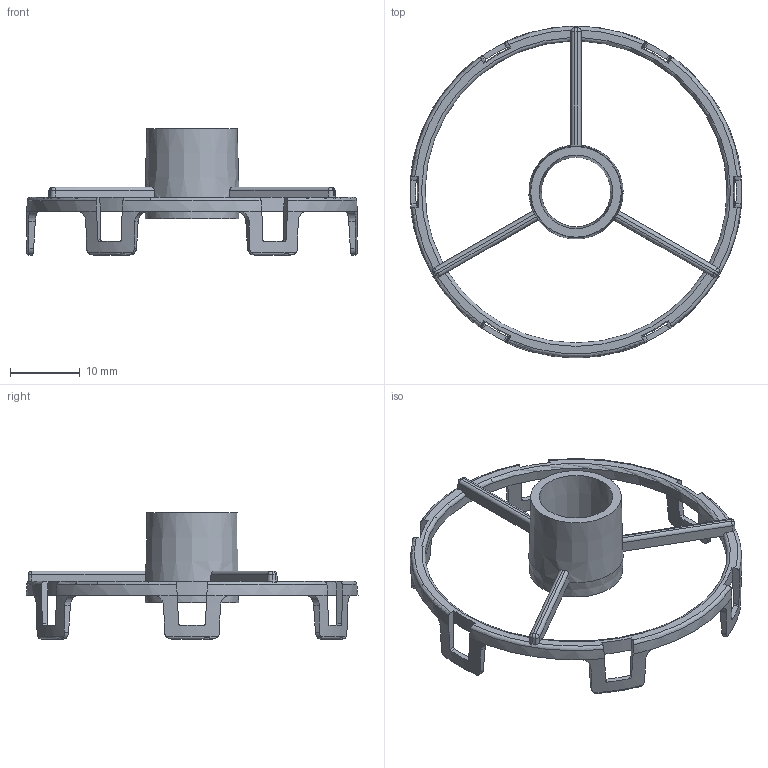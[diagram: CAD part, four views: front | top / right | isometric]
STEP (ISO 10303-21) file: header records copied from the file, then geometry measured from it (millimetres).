
FILE_DESCRIPTION(('STEP AP214'),'1');
FILE_NAME('211108_X74792_3D_LLW59HM_MASQUE_HAUT_IND1.stp','2021-11-08T15:25:41',(' '),(' '),'Spatial InterOp 3D',' ',' ');
FILE_SCHEMA(('AUTOMOTIVE_DESIGN { 1 0 10303 214 1 1 1 1 }'));
Length unit declared in the file: millimetre
Products named in the file (1): 211108_X74792_3D_LLW59HM_MASQUE_HAUT_IND1
Bounding box: 47.38 x 47.54 x 18.05 mm (x, y, z)
Volume: 1520.7 mm3; surface area: 2930.8 mm2
Topology: 1 solids, 1 shells, 157 faces, 474 edges, 295 vertices
Faces by surface type: plane 56, cylinder 51, cone 29, torus 15, sphere 6
Entity records: 7579 total; most frequent: CARTESIAN_POINT 2298, ORIENTED_EDGE 922, DIRECTION 758, EDGE_CURVE 461, AXIS2_PLACEMENT_3D 316, VERTEX_POINT 293, B_SPLINE_CURVE_WITH_KNOTS 177, EDGE_LOOP 164
